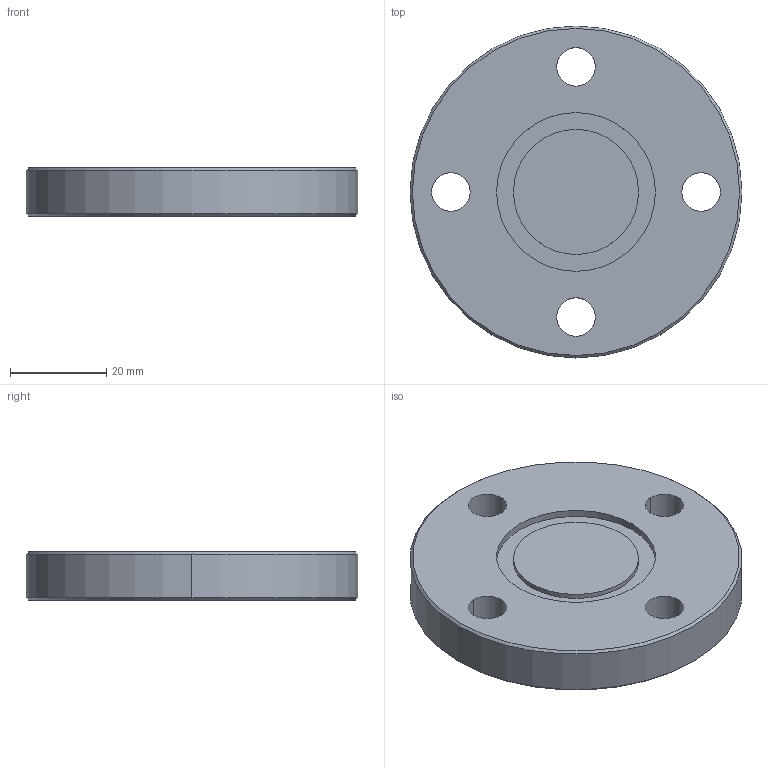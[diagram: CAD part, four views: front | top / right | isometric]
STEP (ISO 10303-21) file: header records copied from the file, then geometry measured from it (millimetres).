
FILE_DESCRIPTION (( 'STEP AP203' ), '1' );
FILE_NAME ('3D_R712_DN26.9_168071060.STEP', '2024-08-08T11:32:01', ( '' ), ( '' ), 'SwSTEP 2.0', 'SolidWorks 2024', '' );
FILE_SCHEMA (( 'CONFIG_CONTROL_DESIGN' ));
Length unit declared in the file: millimetre
Products named in the file (1): 3D_R712_DN26.9_168071060
Bounding box: 69 x 69 x 10 mm (x, y, z)
Volume: 34576.2 mm3; surface area: 10359 mm2
Topology: 1 solids, 1 shells, 22 faces, 50 edges, 32 vertices
Faces by surface type: cylinder 14, cone 4, plane 4
Entity records: 727 total; most frequent: DIRECTION 128, CARTESIAN_POINT 105, ORIENTED_EDGE 100, AXIS2_PLACEMENT_3D 55, EDGE_CURVE 50, EDGE_LOOP 32, VERTEX_POINT 32, CIRCLE 32
